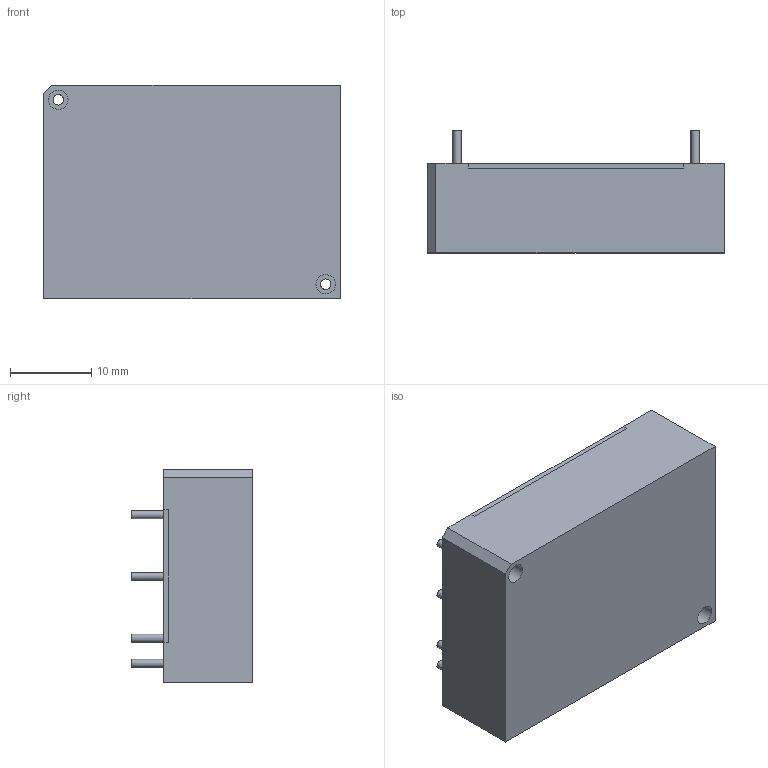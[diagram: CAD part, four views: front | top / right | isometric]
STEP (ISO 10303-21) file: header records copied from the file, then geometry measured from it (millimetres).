
FILE_DESCRIPTION(/* description */ (''),/* implementation_level */ '2;1');
FILE_NAME(/* name */ '',/* time_stamp */ '2022-02-18T17:42:15+01:00',/* author */ (''),/* organization */ (''),/* preprocessor_version */ '',/* originating_system */ '',/* authorisation */ '');
FILE_SCHEMA (('AUTOMOTIVE_DESIGN { 1 0 10303 214 3 1 1 }'));
Length unit declared in the file: millimetre
Products named in the file (1): case_R2B_v1_JETDiR40-S_pins
Bounding box: 36.5 x 15 x 26.3 mm (x, y, z)
Volume: 10521.1 mm3; surface area: 5378.9 mm2
Topology: 3 solids, 4 shells, 100 faces, 249 edges, 166 vertices
Faces by surface type: plane 74, cylinder 25, cone 1
Full cylindrical faces by diameter (mm): 1 x7, 1.3 x2, 2.4 x4
Entity records: 3004 total; most frequent: CARTESIAN_POINT 515, DIRECTION 501, ORIENTED_EDGE 496, EDGE_CURVE 248, LINE 197, VECTOR 197, VERTEX_POINT 166, AXIS2_PLACEMENT_3D 152
